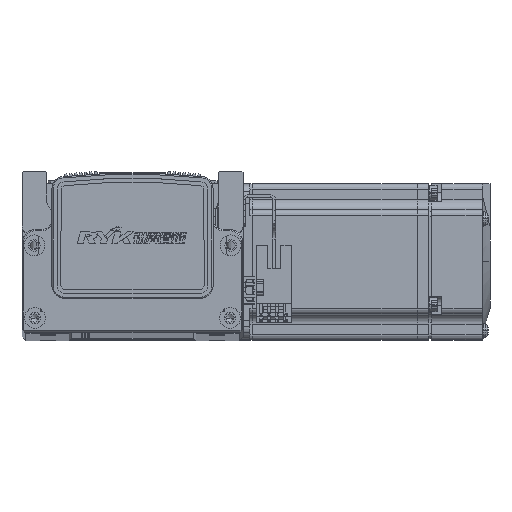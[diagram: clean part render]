
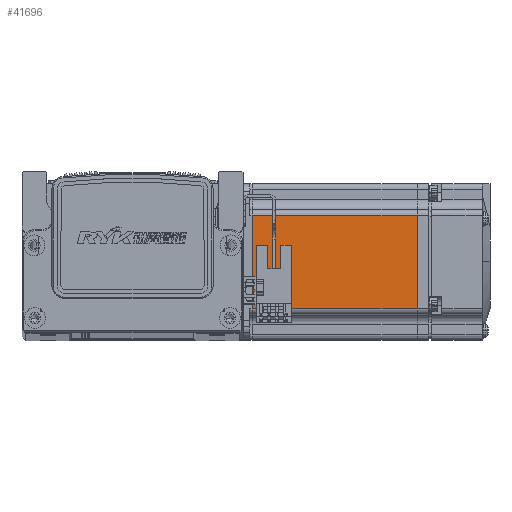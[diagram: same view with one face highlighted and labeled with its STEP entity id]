
A CAD part, top view. The second image highlights one B-rep face of the part: STEP entity #41696.
In plain terms, the highlighted planar face has unit normal (0, 0, 1) as drawn and (0, 0, -1) by its records, which use the part's own axes.
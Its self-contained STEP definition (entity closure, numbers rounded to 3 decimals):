
#3894 = CARTESIAN_POINT ( 'NONE',  ( -7.75, 25., -30. ) ) ;
#3908 = DIRECTION ( 'NONE',  ( 0., -1., 0. ) ) ;
#3940 = CARTESIAN_POINT ( 'NONE',  ( -70.95, 25., -30. ) ) ;
#3941 = DIRECTION ( 'NONE',  ( 0., 1., 0. ) ) ;
#3993 = CARTESIAN_POINT ( 'NONE',  ( -6.5, -18., -30. ) ) ;
#4009 = DIRECTION ( 'NONE',  ( -1., 0., 0. ) ) ;
#11030 = EDGE_LOOP ( 'NONE', ( #26783, #26700, #26774, #26792 ) ) ;
#14341 = DIRECTION ( 'NONE',  ( 1., 0., 0. ) ) ;
#14366 = CARTESIAN_POINT ( 'NONE',  ( -6.5, 18., -30. ) ) ;
#15754 = CARTESIAN_POINT ( 'NONE',  ( -7.75, -18., -30. ) ) ;
#15762 = CARTESIAN_POINT ( 'NONE',  ( -70.95, 18., -30. ) ) ;
#15780 = CARTESIAN_POINT ( 'NONE',  ( -70.95, -18., -30. ) ) ;
#23120 = FACE_OUTER_BOUND ( 'NONE', #11030, .T. ) ;
#26700 = ORIENTED_EDGE ( 'NONE', *, *, #28148, .T. ) ;
#26774 = ORIENTED_EDGE ( 'NONE', *, *, #28115, .T. ) ;
#26783 = ORIENTED_EDGE ( 'NONE', *, *, #28087, .T. ) ;
#26792 = ORIENTED_EDGE ( 'NONE', *, *, #27978, .T. ) ;
#27978 = EDGE_CURVE ( 'NONE', #42560, #42467, #47002, .T. ) ;
#28087 = EDGE_CURVE ( 'NONE', #42467, #42561, #47127, .T. ) ;
#28115 = EDGE_CURVE ( 'NONE', #42590, #42560, #47153, .T. ) ;
#28148 = EDGE_CURVE ( 'NONE', #42561, #42590, #47173, .T. ) ;
#29628 = CARTESIAN_POINT ( 'NONE',  ( -7.75, 18., -30. ) ) ;
#30823 = CARTESIAN_POINT ( 'NONE',  ( -6.5, 25., -30. ) ) ;
#30842 = DIRECTION ( 'NONE',  ( 0., 0., -1. ) ) ;
#30852 = DIRECTION ( 'NONE',  ( -1., 0., 0. ) ) ;
#30893 = PLANE ( 'NONE',  #42343 ) ;
#41696 = ADVANCED_FACE ( 'NONE', ( #23120 ), #30893, .T. ) ;
#42343 = AXIS2_PLACEMENT_3D ( 'NONE', #30823, #30842, #30852 ) ;
#42467 = VERTEX_POINT ( 'NONE', #29628 ) ;
#42560 = VERTEX_POINT ( 'NONE', #15762 ) ;
#42561 = VERTEX_POINT ( 'NONE', #15754 ) ;
#42590 = VERTEX_POINT ( 'NONE', #15780 ) ;
#46994 = VECTOR ( 'NONE', #14341, 1000. ) ;
#47002 = LINE ( 'NONE', #14366, #46994 ) ;
#47103 = VECTOR ( 'NONE', #3908, 1000. ) ;
#47127 = LINE ( 'NONE', #3894, #47103 ) ;
#47153 = LINE ( 'NONE', #3940, #47200 ) ;
#47173 = LINE ( 'NONE', #3993, #47174 ) ;
#47174 = VECTOR ( 'NONE', #4009, 1000. ) ;
#47200 = VECTOR ( 'NONE', #3941, 1000. ) ;
